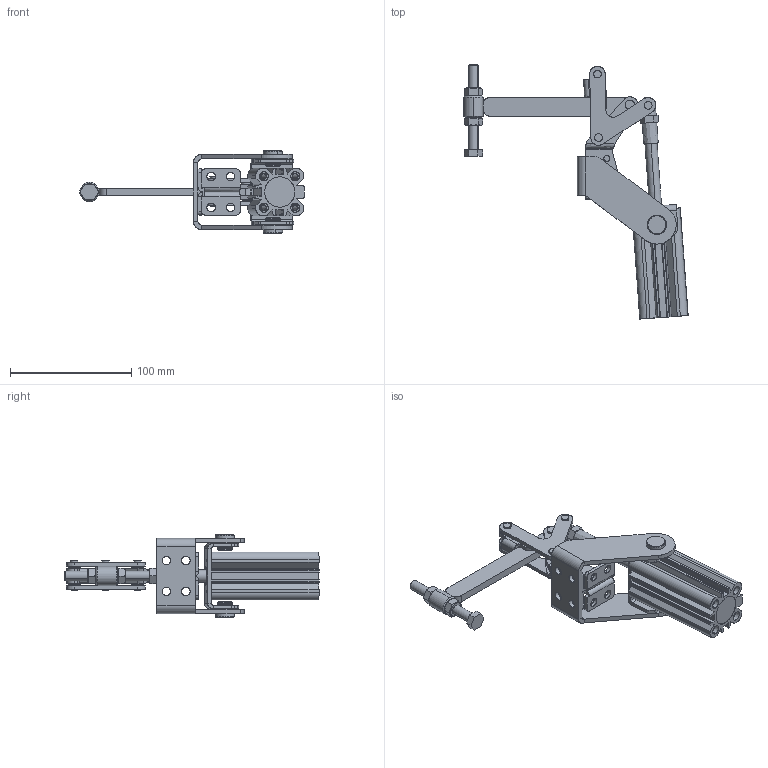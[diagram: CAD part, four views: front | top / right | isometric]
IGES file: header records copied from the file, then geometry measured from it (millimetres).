
Start section: SolidWorks IGES file using analytic representation for surfaces
Global section: file name: C:\Projetos\Grampos\KF-718 P\KF-718 S P\KF-718 S P.IGS; native system: SolidWorks 2015; preprocessor: SolidWorks 2015; author: Ricardo; date: 161215.134243; units: millimetre
Bounding box: 185.06 x 209.63 x 68 mm (x, y, z)
Surface area: 108141.3 mm2 (no closed solid volume)
Topology: 0 solids, 0 shells, 881 faces, 13570 edges, 13558 vertices
Faces by surface type: revolution 571, bspline 310
